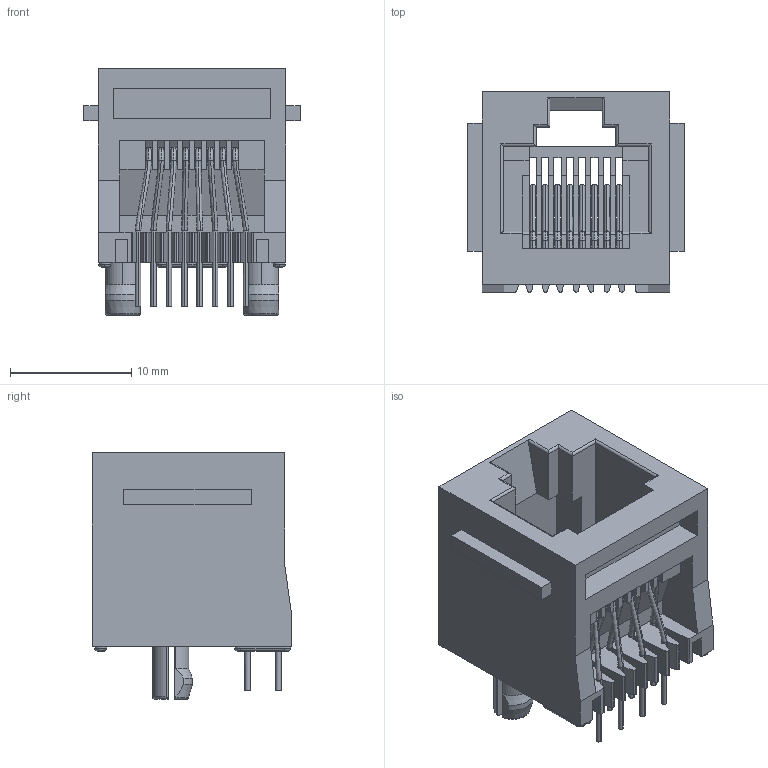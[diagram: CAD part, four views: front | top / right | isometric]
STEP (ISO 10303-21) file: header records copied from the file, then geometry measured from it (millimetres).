
FILE_DESCRIPTION((''),'2;1');
FILE_NAME('DGKYD52221188IWA1DY1017','2026-03-02T16:10:58',('DGKYD'),(''),'CREO PARAMETRIC BY PTC INC, 2019010','CREO PARAMETRIC BY PTC INC, 2019010','');
FILE_SCHEMA(('CONFIG_CONTROL_DESIGN'));
Length unit declared in the file: millimetre
Products named in the file (1): DGKYD52221188IWA1DY1017
Bounding box: 17.85 x 16.5 x 20.36 mm (x, y, z)
Volume: 2078.8 mm3; surface area: 3184.6 mm2
Topology: 1 solids, 1 shells, 465 faces, 1387 edges, 910 vertices
Faces by surface type: plane 258, cylinder 139, bspline 58, torus 6, cone 4
Entity records: 29635 total; most frequent: CARTESIAN_POINT 17362, ORIENTED_EDGE 2774, DIRECTION 2287, EDGE_CURVE 1387, VERTEX_POINT 910, VECTOR 897, LINE 897, AXIS2_PLACEMENT_3D 695
